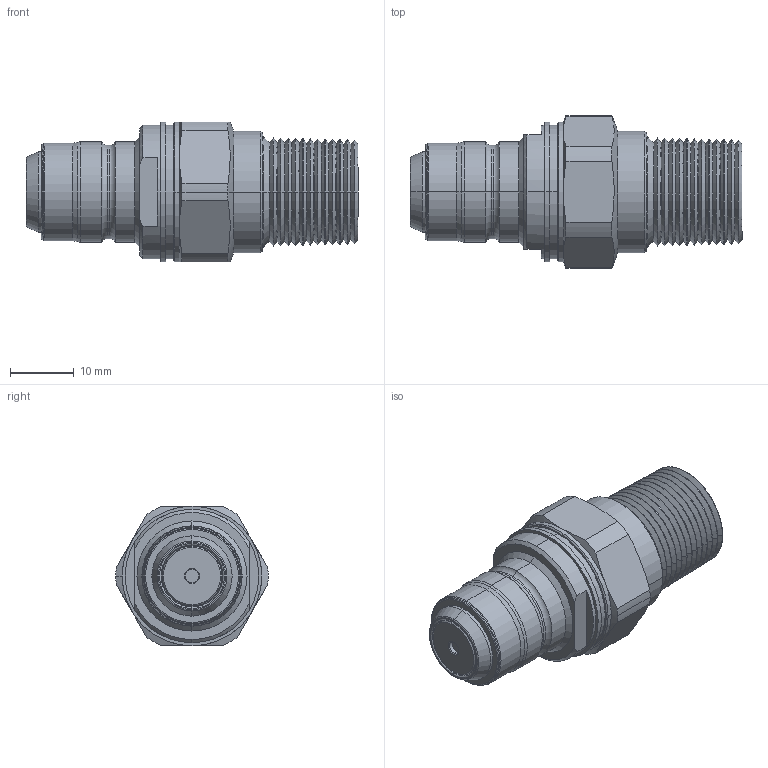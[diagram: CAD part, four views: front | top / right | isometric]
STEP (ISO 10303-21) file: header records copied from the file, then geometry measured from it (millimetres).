
FILE_DESCRIPTION (( 'STEP AP203' ), '1' );
FILE_NAME ('QDT3-MN38.STEP', '2026-08-28T03:52:55', ( 'aksong' ), ( '' ), 'SwSTEP 2.0', 'SolidWorks 2012', '' );
FILE_SCHEMA (( 'CONFIG_CONTROL_DESIGN' ));
Length unit declared in the file: millimetre
Products named in the file (3): QDT3-MN38; Male_NPT 3_8 檣憮お 蝶觼盟; Male_body
Assembly tree (2 placements, depth 2):
  QDT3-MN38
    Male_NPT 3_8 檣憮お 蝶觼盟
    Male_body
Bounding box: 52.28 x 24 x 22 mm (x, y, z)
Volume: 12377.4 mm3; surface area: 5165.9 mm2
Topology: 2 solids, 2 shells, 206 faces, 428 edges, 235 vertices
Faces by surface type: cone 130, cylinder 35, plane 23, torus 18
Entity records: 5722 total; most frequent: DIRECTION 1063, CARTESIAN_POINT 956, ORIENTED_EDGE 856, AXIS2_PLACEMENT_3D 446, EDGE_CURVE 428, VERTEX_POINT 235, CIRCLE 235, EDGE_LOOP 215
